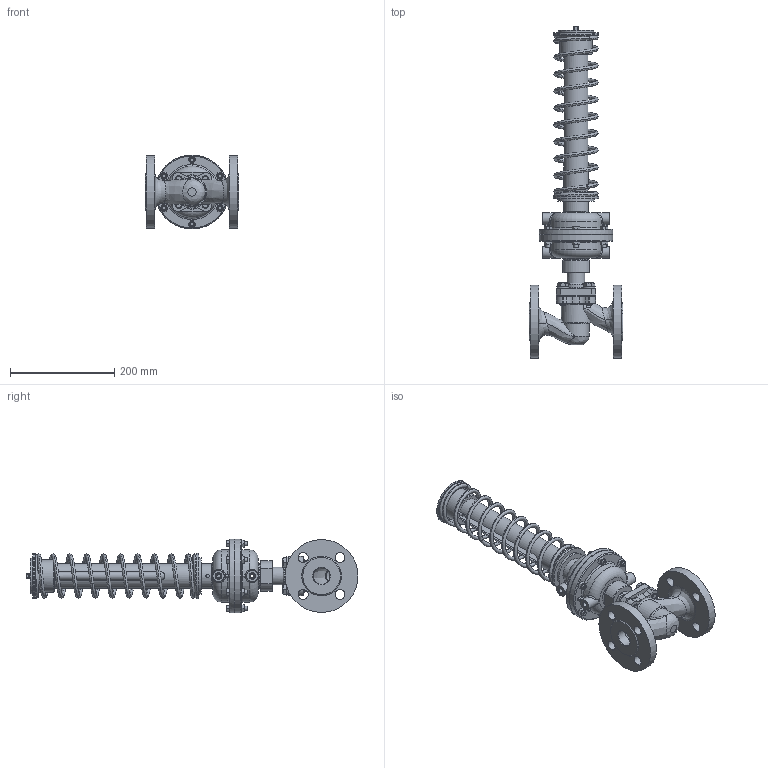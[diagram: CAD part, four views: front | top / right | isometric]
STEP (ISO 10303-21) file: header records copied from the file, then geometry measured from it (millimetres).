
FILE_DESCRIPTION(('STEP AP203'), '1');
FILE_NAME('ra-m_32_1z2_31_42_002', '2016-02-02T11:14:52', (''), (''), 'ASCON STEP Converter 1.3', 'ASCON Math Kernel', '');
FILE_SCHEMA(('CONFIG_CONTROL_DESIGN'));
Length unit declared in the file: millimetre
Products named in the file (67): 1; 2; 3; 4; 5; 6; 7; 8; 9; 10; 11; 12; 13; 14; 15; 16; 17; 18; 19; 20; 21; 22; 23; 24; 25; 26; 27; 28; 29; 30; 31; 32; 33; 34; 35; 36; 37; 38; 39; 40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
Assembly tree (66 placements, depth 2):
  1
    2
    3
    4
    5
    6
    7
    8
    9
    10
    11
    12
    13
    14
    15
    16
    17
    18
    19
    20
    21
    22
    23
    24
    25
    26
    27
    28
    29
    30
    31
    32
    33
    34
    35
    36
    37
    38
    39
    40
    41
    42
    43
    44
    45
    46
    47
    48
    49
    50
    51
    52
    53
    54
    55
    56
    57
    58
    59
    60
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Bounding box: 180 x 638 x 142 mm (x, y, z)
Volume: 1687199.3 mm3; surface area: 574988.3 mm2
Topology: 36 solids, 68 shells, 829 faces, 1926 edges, 1234 vertices
Faces by surface type: plane 306, cylinder 242, cone 113, bspline 104, torus 63, sphere 1
Full cylindrical faces by diameter (mm): 2 x1, 4 x1, 5 x1, 6 x1, 6.5 x7, 6.6 x6, 7 x4, 8 x12, 8.5 x4, 9 x12, 10 x5, 10.1 x4, 10.5 x4, 11 x2, 12 x15, 13 x4, 13.7 x1, 14 x1, 14.5 x3, 15 x3, 16 x2, 17 x1, 19 x8, 20 x6, 22 x4, 24 x4, 26.4 x1, 28 x1, 30 x5, 32 x3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
Entity records: 69034 total; most frequent: CARTESIAN_POINT 41235, ORIENTED_EDGE 3711, DIRECTION 3541, EDGE_CURVE 1922, AXIS2_PLACEMENT_3D 1458, VERTEX_POINT 1234, EDGE_LOOP 1018, ADVANCED_FACE 829
